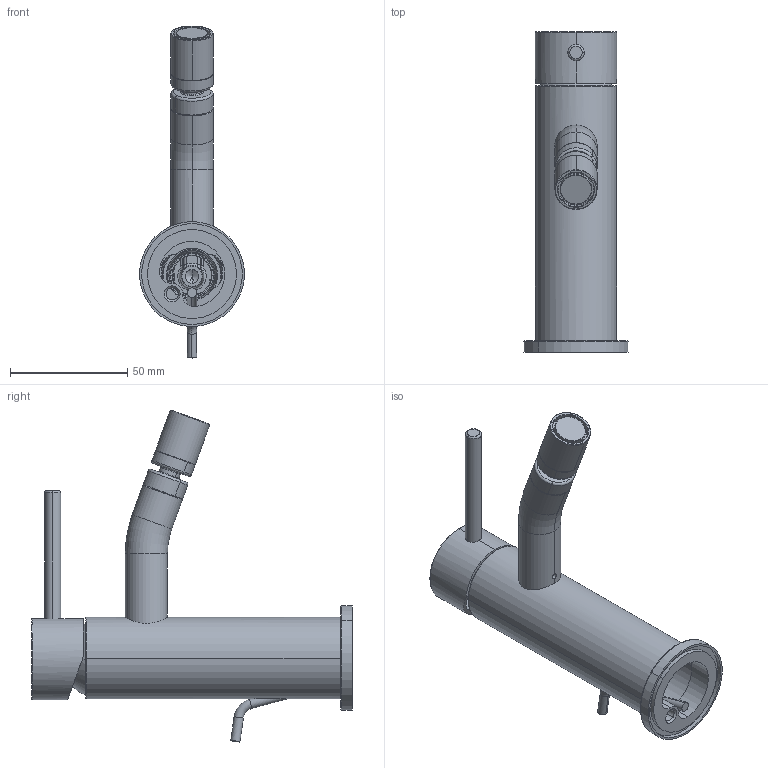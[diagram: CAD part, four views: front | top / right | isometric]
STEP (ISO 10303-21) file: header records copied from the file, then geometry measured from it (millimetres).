
FILE_DESCRIPTION((''),'2;1');
FILE_NAME('F3032XS_FILE_3D','2016-01-26T',('ivanv'),(''),'CREO PARAMETRIC BY PTC INC, 2015290','CREO PARAMETRIC BY PTC INC, 2015290','');
FILE_SCHEMA(('CONFIG_CONTROL_DESIGN'));
Length unit declared in the file: millimetre
Products named in the file (1): F3032XS_FILE_3D
Bounding box: 44.63 x 137 x 141.88 mm (x, y, z)
Volume: 61129.1 mm3; surface area: 48230.7 mm2
Topology: 3 solids, 3 shells, 633 faces, 1587 edges, 995 vertices
Faces by surface type: plane 273, cylinder 153, torus 100, cone 54, bspline 47, sphere 6
Entity records: 26805 total; most frequent: CARTESIAN_POINT 11859, ORIENTED_EDGE 3166, DIRECTION 3019, EDGE_CURVE 1583, AXIS2_PLACEMENT_3D 1079, VERTEX_POINT 995, VECTOR 861, LINE 861
